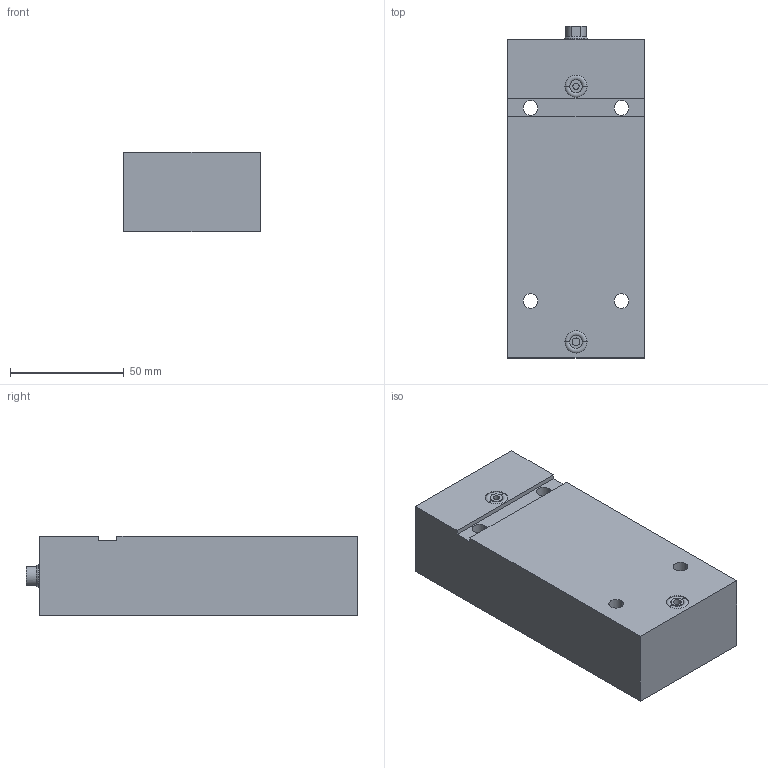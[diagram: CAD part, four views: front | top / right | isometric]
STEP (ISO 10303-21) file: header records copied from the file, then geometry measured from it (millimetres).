
FILE_DESCRIPTION (( 'STEP AP203' ), '1' );
FILE_NAME ('GERMA_Blockzylinder_604-016-100.STEP', '2016-01-04T16:19:15', ( '' ), ( '' ), 'SwSTEP 2.0', 'SolidWorks 2015', '' );
FILE_SCHEMA (( 'CONFIG_CONTROL_DESIGN' ));
Length unit declared in the file: millimetre
Products named in the file (3): GH-600-016_GH-604-016-100; Kolben 60x-016_Kolben DU.16-Hub100-IG; GERMA_Blockzylinder_604-016-100
Assembly tree (2 placements, depth 2):
  GERMA_Blockzylinder_604-016-100
    GH-600-016_GH-604-016-100
    Kolben 60x-016_Kolben DU.16-Hub100-IG
Bounding box: 60 x 146 x 35 mm (x, y, z)
Volume: 276210.9 mm3; surface area: 45206.5 mm2
Topology: 2 solids, 2 shells, 83 faces, 184 edges, 112 vertices
Faces by surface type: cylinder 39, plane 26, cone 14, torus 4
Entity records: 2588 total; most frequent: DIRECTION 449, CARTESIAN_POINT 378, ORIENTED_EDGE 356, AXIS2_PLACEMENT_3D 183, EDGE_CURVE 178, VERTEX_POINT 112, EDGE_LOOP 104, CIRCLE 95
